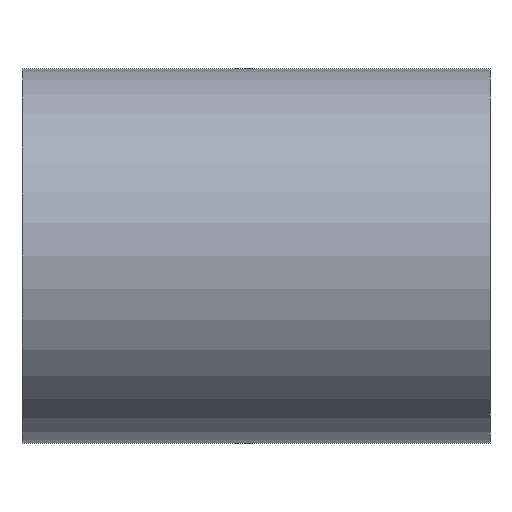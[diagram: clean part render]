
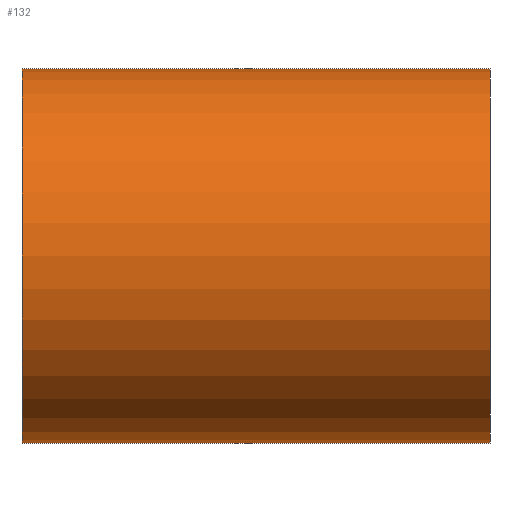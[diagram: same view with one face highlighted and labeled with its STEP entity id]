
A CAD part, front view. The second image highlights one B-rep face of the part: STEP entity #132.
In plain terms, the highlighted cylindrical face has radius 600 mm (diameter 1200 mm), a partial arc.
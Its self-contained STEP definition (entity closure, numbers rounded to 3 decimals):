
#132=ADVANCED_FACE('',(#260),#261,.T.);
#260=FACE_OUTER_BOUND('',#415,.T.);
#261=CYLINDRICAL_SURFACE('',#416,600.0);
#415=EDGE_LOOP('',(#739,#740,#741,#742));
#416=AXIS2_PLACEMENT_3D('',#743,#744,#745);
#739=ORIENTED_EDGE('',*,*,#827,.T.);
#740=ORIENTED_EDGE('',*,*,#968,.F.);
#741=ORIENTED_EDGE('',*,*,#829,.T.);
#742=ORIENTED_EDGE('',*,*,#969,.F.);
#743=CARTESIAN_POINT('',(0.0,0.0,0.0));
#744=DIRECTION('',(1.0,0.0,0.0));
#745=DIRECTION('',(0.0,0.0,-1.0));
#827=EDGE_CURVE('',#973,#974,#975,.T.);
#829=EDGE_CURVE('',#978,#976,#979,.T.);
#968=EDGE_CURVE('',#978,#974,#1186,.T.);
#969=EDGE_CURVE('',#973,#976,#1187,.T.);
#973=VERTEX_POINT('',#1191);
#974=VERTEX_POINT('',#1192);
#975=LINE('',#1193,#1194);
#976=VERTEX_POINT('',#1195);
#978=VERTEX_POINT('',#1197);
#979=LINE('',#1198,#1199);
#1186=CIRCLE('',#1440,600.0);
#1187=CIRCLE('',#1441,600.0);
#1191=CARTESIAN_POINT('',(-750.0,0.0,-600.0));
#1192=CARTESIAN_POINT('',(750.0,0.0,-600.0));
#1193=CARTESIAN_POINT('',(0.0,0.,-600.0));
#1194=VECTOR('',#1444,1.0);
#1195=CARTESIAN_POINT('',(-750.0,0.,600.0));
#1197=CARTESIAN_POINT('',(750.0,0.,600.0));
#1198=CARTESIAN_POINT('',(0.0,0.,600.0));
#1199=VECTOR('',#1448,1.0);
#1440=AXIS2_PLACEMENT_3D('',#1690,#1691,#1692);
#1441=AXIS2_PLACEMENT_3D('',#1693,#1694,#1695);
#1444=DIRECTION('',(1.0,0.0,0.0));
#1448=DIRECTION('',(-1.0,-0.0,-0.0));
#1690=CARTESIAN_POINT('',(750.0,0.0,0.0));
#1691=DIRECTION('',(1.0,0.0,0.0));
#1692=DIRECTION('',(0.0,0.0,-1.0));
#1693=CARTESIAN_POINT('',(-750.0,0.0,0.0));
#1694=DIRECTION('',(-1.0,0.0,0.0));
#1695=DIRECTION('',(0.0,0.0,-1.0));
